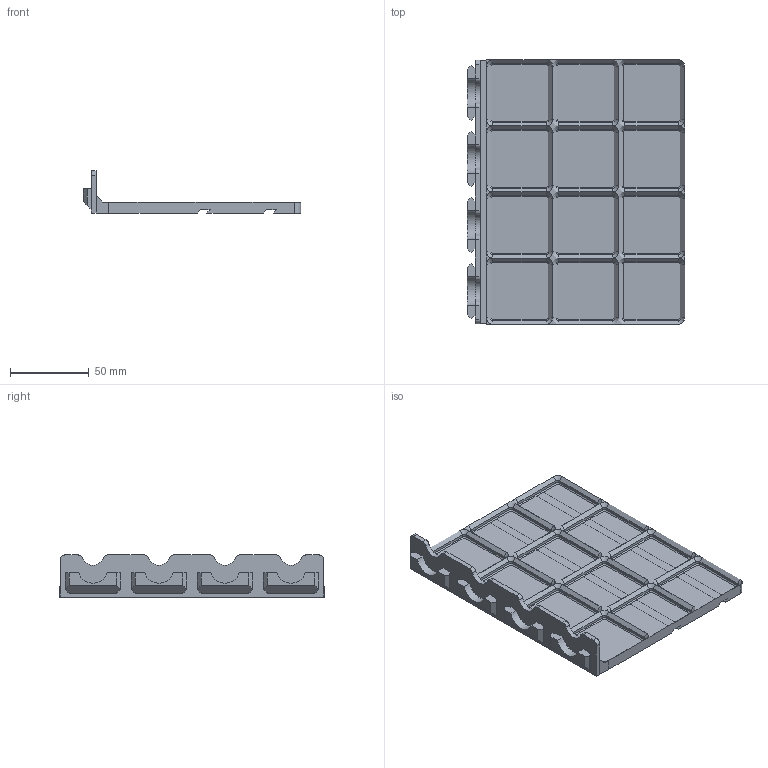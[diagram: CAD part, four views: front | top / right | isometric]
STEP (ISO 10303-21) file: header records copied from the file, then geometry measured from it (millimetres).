
FILE_DESCRIPTION(/* description */ ('','CAx-IF Rec.Pracs.---Representation and Presentation of Product Manufacturing Information (PMI)---4.0---2014-10-13'),/* implementation_level */ '2;1');
FILE_NAME(/* name */ 'Goews 4x Hanger Gridfinity 4x3 Base.step',/* time_stamp */ '2024-11-29T16:32:02-05:00',/* author */ (''),/* organization */ (''),/* preprocessor_version */ 'ST-DEVELOPER v20',/* originating_system */ 'Autodesk Translation Framework v13.20.0.188',/* authorisation */ '');
FILE_SCHEMA (('AP242_MANAGED_MODEL_BASED_3D_ENGINEERING_MIM_LF { 1 0 10303 442 1 1 4 }'));
Length unit declared in the file: millimetre
Products named in the file (2): Goews Quad Hanger Gridfinity 2x4 Base; Component2
Assembly tree (1 placements, depth 2):
  Goews Quad Hanger Gridfinity 2x4 Base
    Component2
Bounding box: 138.15 x 168 x 26.72 mm (x, y, z)
Volume: 85196 mm3; surface area: 63625.2 mm2
Topology: 1 solids, 1 shells, 456 faces, 1010 edges, 560 vertices
Faces by surface type: plane 246, cylinder 114, cone 96
Entity records: 12185 total; most frequent: DIRECTION 2206, CARTESIAN_POINT 2029, ORIENTED_EDGE 2020, EDGE_CURVE 1010, AXIS2_PLACEMENT_3D 737, LINE 732, VECTOR 732, VERTEX_POINT 560
